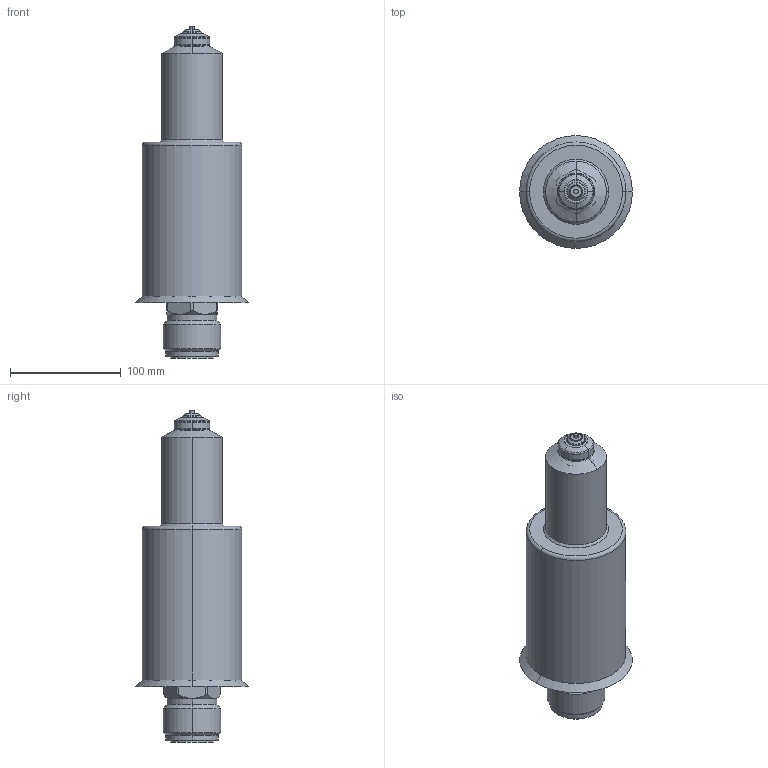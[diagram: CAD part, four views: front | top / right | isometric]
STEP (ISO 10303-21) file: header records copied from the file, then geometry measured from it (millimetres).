
FILE_DESCRIPTION (( 'STEP AP214' ), '1' );
FILE_NAME ('T20_OPEN_250_BAND_RD.STEP', '2016-09-08T18:08:42', ( '' ), ( '' ), 'SwSTEP 2.0', 'SolidWorks 2015', '' );
FILE_SCHEMA (( 'AUTOMOTIVE_DESIGN' ));
Length unit declared in the file: millimetre
Products named in the file (1): T20_OPEN_250_BAND_RD
Bounding box: 102 x 102 x 300 mm (x, y, z)
Volume: 1680577.9 mm3; surface area: 130731.3 mm2
Topology: 2 solids, 2 shells, 432 faces, 1083 edges, 671 vertices
Faces by surface type: plane 160, cylinder 156, torus 72, cone 36, sphere 4, bspline 4
Entity records: 18904 total; most frequent: CARTESIAN_POINT 3655, DIRECTION 2291, ORIENTED_EDGE 2158, EDGE_CURVE 1079, AXIS2_PLACEMENT_3D 899, VERTEX_POINT 671, VECTOR 493, LINE 493
